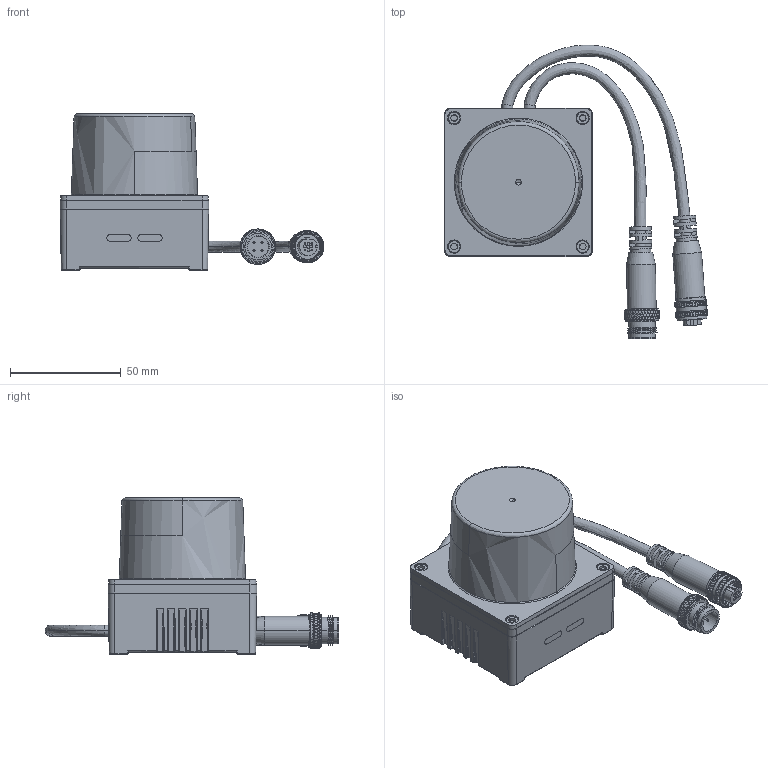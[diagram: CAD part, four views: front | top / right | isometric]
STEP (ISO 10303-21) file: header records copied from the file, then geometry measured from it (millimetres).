
FILE_DESCRIPTION(/* description */ (''),/* implementation_level */ '2;1');
FILE_NAME(/* name */ 'SSA-25',/* time_stamp */ '2025-09-04T09:58:43+08:00',/* author */ (''),/* organization */ (''),/* preprocessor_version */ 'ST-DEVELOPER v19.2',/* originating_system */ 'Rhino 8.5',/* authorisation */ '');
FILE_SCHEMA (('CONFIG_CONTROL_DESIGN'));
Products named in the file (18): Document; PRT0016_3; PRT0015_7; PRT0011_3; PRT0014_3; PRT0013_1; PRT0012_3; PRT0008_1; PRT0007_1; PRT0003_7; CHANPING_3; MLA-DZ-20220727-2_8; PRT0006_8; PRT0005_6; PRT0002_8; 55_4; 11111; 图块 01
Bounding box: 118.94 x 132.65 x 70.6 mm (x, y, z)
Volume: 161246.6 mm3; surface area: 55469.7 mm2
Topology: 22 solids, 25 shells, 4942 faces, 12874 edges, 7798 vertices
Faces by surface type: plane 3777, cylinder 755, bspline 410
Entity records: 153650 total; most frequent: CARTESIAN_POINT 60198, ORIENTED_EDGE 24756, EDGE_CURVE 12530, B_SPLINE_CURVE_WITH_KNOTS 11035, VERTEX_POINT 7618, DIRECTION 7555, AXIS2_PLACEMENT_3D 6006, EDGE_LOOP 5006
